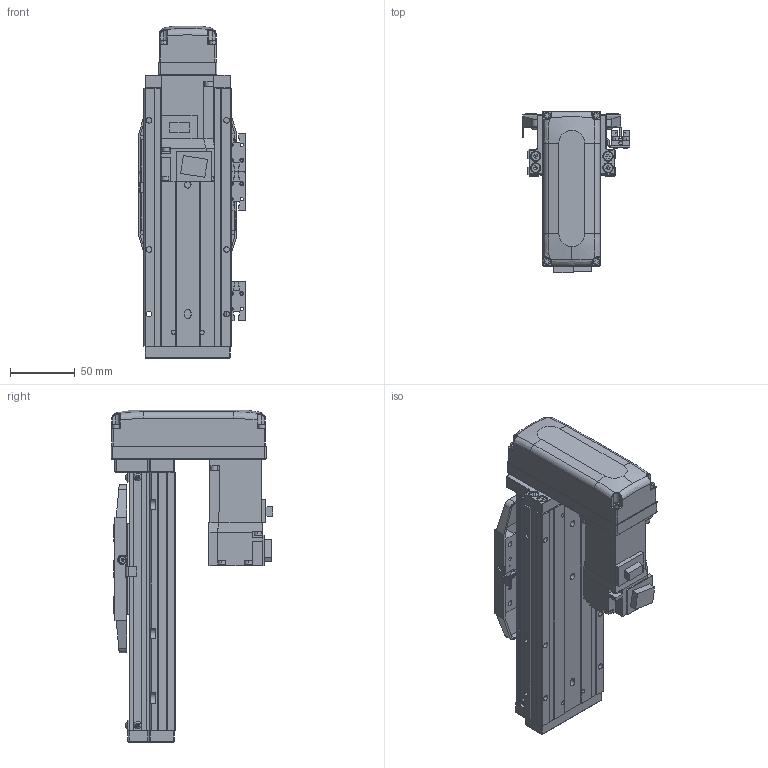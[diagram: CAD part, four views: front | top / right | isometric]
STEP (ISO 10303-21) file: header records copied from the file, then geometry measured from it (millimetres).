
FILE_DESCRIPTION (( 'STEP AP203' ), '1' );
FILE_NAME ('CTHA60-50-BM-M10-C4L.step', '2022-03-19T06:17:54', ( '微软用户' ), ( '微软中国' ), 'SwSTEP 2.0', 'SolidWorks 2020', '' );
FILE_SCHEMA (( 'CONFIG_CONTROL_DESIGN' ));
Length unit declared in the file: millimetre
Products named in the file (18): CTHA60-017; HG-KR13（三菱）; CTHA60-021; CTHA60-002; CTHA60-001_200; GBT 70.1-M4×16; CTHA60-031; CTHA60-004; GBT77-2000 M3×3; CTHA60-006-1; CTHA60-005; GBT 70.1-M3℅6; CTHA60-033; GB¨uT 70.2-M3¡Á6_M3¡Á6; GBT 70.3-M3℅6; CTHA60-50-BM-M10-C4L; EE_SX911P_R; CTHA60-016
Assembly tree (54 placements, depth 2):
  CTHA60-50-BM-M10-C4L
    CTHA60-001_200
    CTHA60-004
    CTHA60-005
    GB¨uT 70.2-M3¡Á6_M3¡Á6  x10
    EE_SX911P_R  x3
    CTHA60-017  x3
    CTHA60-021  x2
    GBT 70.1-M4×16  x10
    GBT77-2000 M3×3  x6
    GBT 70.1-M3℅6  x6
    GBT 70.3-M3℅6  x4
    CTHA60-016  x2
    HG-KR13（三菱）
    CTHA60-002
    CTHA60-031
    CTHA60-006-1
    CTHA60-033
Bounding box: 83.12 x 125.3 x 257 mm (x, y, z)
Volume: 623962.6 mm3; surface area: 211842.3 mm2
Topology: 56 solids, 56 shells, 2434 faces, 5813 edges, 3577 vertices
Faces by surface type: plane 1401, cylinder 553, cone 332, torus 92, bspline 32, sphere 24
Entity records: 42427 total; most frequent: CARTESIAN_POINT 8250, DIRECTION 6506, ORIENTED_EDGE 6434, EDGE_CURVE 3217, LINE 2274, VECTOR 2274, AXIS2_PLACEMENT_3D 2116, VERTEX_POINT 2036
